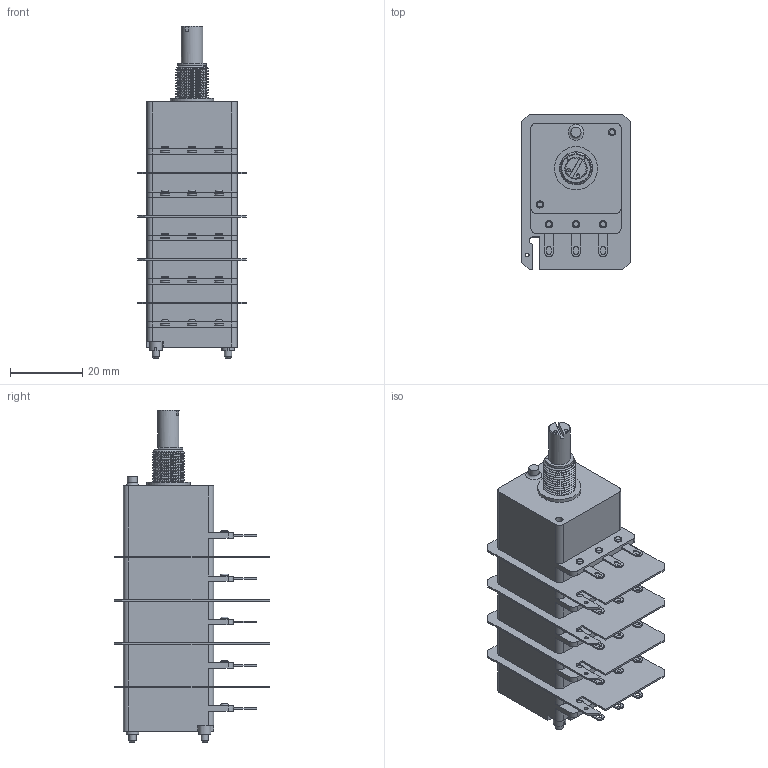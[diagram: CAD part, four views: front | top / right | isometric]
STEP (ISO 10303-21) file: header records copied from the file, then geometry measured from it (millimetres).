
FILE_DESCRIPTION(('FreeCAD Model'),'2;1');
FILE_NAME('Open CASCADE Shape Model','2026-07-15T09:24:17',(''),(''), 'Open CASCADE STEP processor 7.8','FreeCAD','Unknown');
FILE_SCHEMA(('AUTOMOTIVE_DESIGN { 1 0 10303 214 1 1 1 1 }'));
Length unit declared in the file: millimetre
Products named in the file (1): 5CP25XX-S-6SM20
Bounding box: 30 x 43 x 92 mm (x, y, z)
Volume: 45138.2 mm3; surface area: 18702.1 mm2
Topology: 1 solids, 38 shells, 600 faces, 1377 edges, 909 vertices
Faces by surface type: plane 343, cylinder 192, bspline 38, torus 19, cone 6, sphere 2
Full cylindrical faces by diameter (mm): 1 x4, 1.9 x2, 2 x39, 2.2 x26, 2.5 x4, 2.8 x1, 3.5 x2, 4.4 x1, 4.5 x5, 5.4 x1, 6 x1, 6.05 x1, 8 x1, 9 x4, 12 x1
Entity records: 22618 total; most frequent: CARTESIAN_POINT 7261, DIRECTION 2891, ORIENTED_EDGE 2748, EDGE_CURVE 1374, AXIS2_PLACEMENT_3D 1068, VERTEX_POINT 909, LINE 755, VECTOR 755
